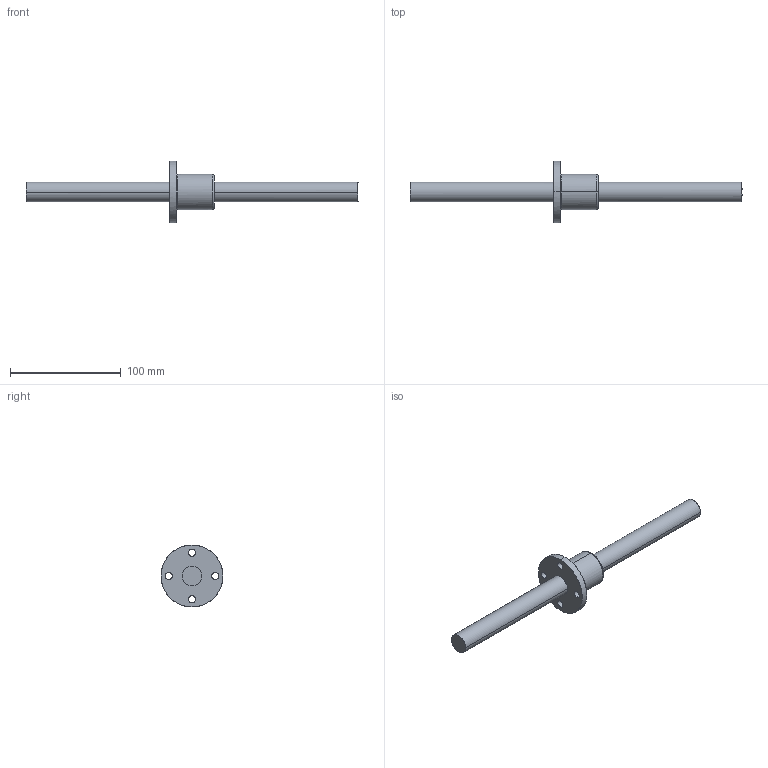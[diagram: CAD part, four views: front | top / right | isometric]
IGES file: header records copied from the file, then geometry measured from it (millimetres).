
Global section: file name: No Iges File Name specified; native system: AutoDesk Inventor R10; preprocessor: AutoDesk Inventor Iges Exporter R10; author: No Author specified; organization: No Organization specified; date: 20101224.144541; units: millimetre
Bounding box: 300 x 56 x 56 mm (x, y, z)
Surface area: 28762.9 mm2 (no closed solid volume)
Topology: 0 solids, 0 shells, 25 faces, 184 edges, 184 vertices
Faces by surface type: bspline 25
